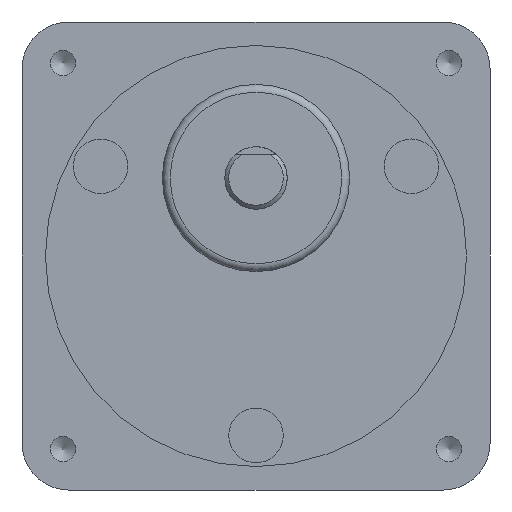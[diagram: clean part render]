
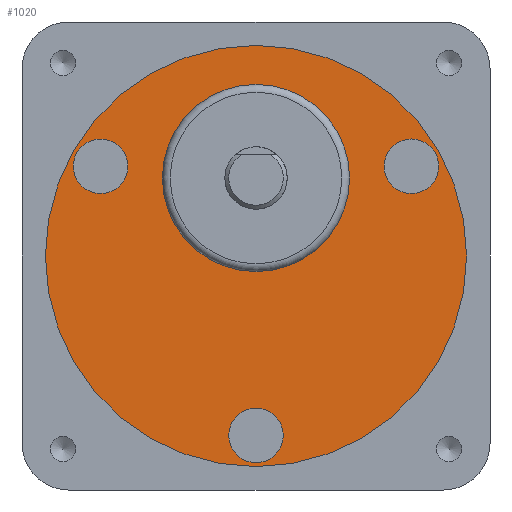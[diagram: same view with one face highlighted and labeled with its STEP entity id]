
A CAD part, front view. The second image highlights one B-rep face of the part: STEP entity #1020.
In plain terms, the highlighted planar face has unit normal (0, -1, 0).
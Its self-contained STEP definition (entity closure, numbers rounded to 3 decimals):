
#514=CARTESIAN_POINT('',(12.,-1.5,10.0));
#515=VERTEX_POINT('',#514);
#516=CARTESIAN_POINT('',(0.,-1.5,10.));
#517=DIRECTION('',(0.0,-1.0,0.0));
#518=DIRECTION('',(-1.0,0.0,0.0));
#519=AXIS2_PLACEMENT_3D('',#516,#517,#518);
#520=CIRCLE('',#519,12.);
#521=EDGE_CURVE('',#515,#515,#520,.T.);
#968=CARTESIAN_POINT('',(0.,-1.5,0.));
#969=DIRECTION('',(0.0,1.0,0.0));
#970=DIRECTION('',(0.0,0.0,1.0));
#971=AXIS2_PLACEMENT_3D('',#968,#969,#970);
#972=PLANE('',#971);
#973=CARTESIAN_POINT('',(27.,-1.5,0.));
#974=VERTEX_POINT('',#973);
#975=CARTESIAN_POINT('',(0.,-1.5,0.));
#976=DIRECTION('',(0.0,-1.0,0.0));
#977=DIRECTION('',(-1.0,0.0,0.0));
#978=AXIS2_PLACEMENT_3D('',#975,#976,#977);
#979=CIRCLE('',#978,27.0);
#980=EDGE_CURVE('',#974,#974,#979,.T.);
#981=ORIENTED_EDGE('',*,*,#980,.T.);
#982=EDGE_LOOP('',(#981));
#983=FACE_OUTER_BOUND('',#982,.T.);
#984=CARTESIAN_POINT('',(18.169,-1.5,14.531));
#985=VERTEX_POINT('',#984);
#986=CARTESIAN_POINT('',(19.919,-1.5,11.5));
#987=DIRECTION('',(0.0,1.0,0.0));
#988=DIRECTION('',(0.5,0.0,-0.866));
#989=AXIS2_PLACEMENT_3D('',#986,#987,#988);
#990=CIRCLE('',#989,3.5);
#991=EDGE_CURVE('',#985,#985,#990,.T.);
#992=ORIENTED_EDGE('',*,*,#991,.T.);
#993=EDGE_LOOP('',(#992));
#994=FACE_BOUND('',#993,.T.);
#995=CARTESIAN_POINT('',(-21.669,-1.5,8.469));
#996=VERTEX_POINT('',#995);
#997=CARTESIAN_POINT('',(-19.919,-1.5,11.5));
#998=DIRECTION('',(0.0,1.,0.0));
#999=DIRECTION('',(0.5,0.0,0.866));
#1000=AXIS2_PLACEMENT_3D('',#997,#998,#999);
#1001=CIRCLE('',#1000,3.5);
#1002=EDGE_CURVE('',#996,#996,#1001,.T.);
#1003=ORIENTED_EDGE('',*,*,#1002,.T.);
#1004=EDGE_LOOP('',(#1003));
#1005=FACE_BOUND('',#1004,.T.);
#1006=CARTESIAN_POINT('',(3.5,-1.5,-23.));
#1007=VERTEX_POINT('',#1006);
#1008=CARTESIAN_POINT('',(0.,-1.5,-23.));
#1009=DIRECTION('',(0.0,1.0,0.0));
#1010=DIRECTION('',(-1.0,0.0,0.0));
#1011=AXIS2_PLACEMENT_3D('',#1008,#1009,#1010);
#1012=CIRCLE('',#1011,3.5);
#1013=EDGE_CURVE('',#1007,#1007,#1012,.T.);
#1014=ORIENTED_EDGE('',*,*,#1013,.T.);
#1015=EDGE_LOOP('',(#1014));
#1016=FACE_BOUND('',#1015,.T.);
#1017=ORIENTED_EDGE('',*,*,#521,.F.);
#1018=EDGE_LOOP('',(#1017));
#1019=FACE_BOUND('',#1018,.T.);
#1020=ADVANCED_FACE('',(#983,#994,#1005,#1016,#1019),#972,.F.);
